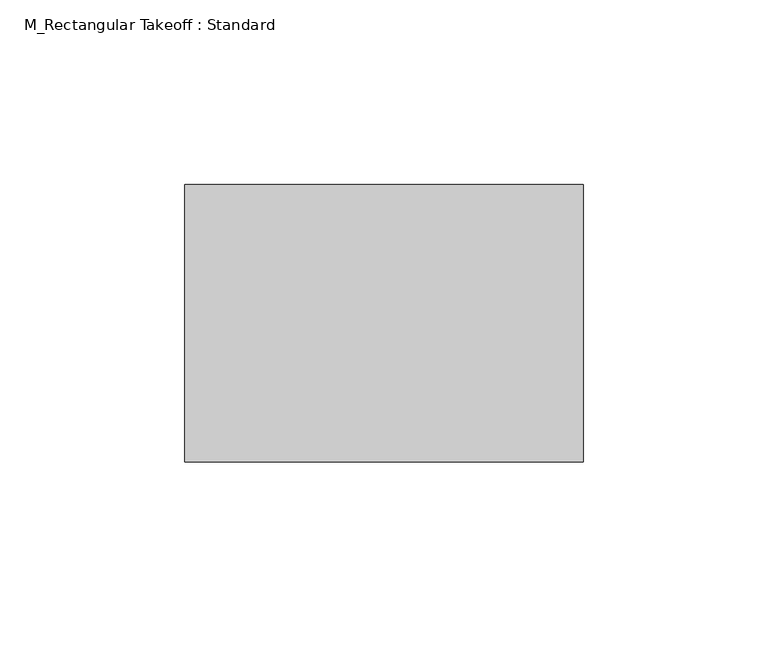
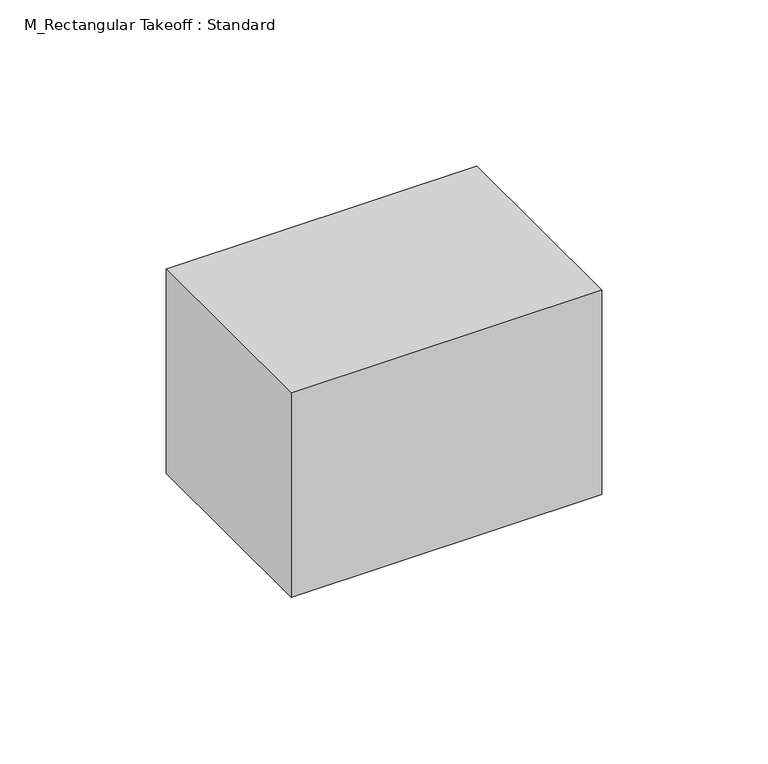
"""IFC4 building model written with IfcOpenShell, lengths in millimetres: duct fitting geometry, M_Rectangular Takeoff : Standard."""

from ifc_helpers import new_model, si_unit, frame, origin, place, context, project, spatial, polyline, outline, extrude, source, transform, mapped, element, save


def m_rectangular_takeoff_standard_39a10c1c(model_context):
    return source(origin(), model_context, "Body", "SweptSolid", [
        extrude(outline(polyline([(-6.096, -37.5), (-6.096, 37.5), (101.6, 37.5), (101.6, -37.5), (-6.096, -37.5)])), frame((0.0, 0.0, -37.5), z_axis=(0.0, 0.0, 1.0), x_axis=(1.0, 0.0, 0.0)), (0.0, 0.0, 1.0), 75.0),
    ])


if __name__ == "__main__":
    model = new_model("IFC4")
    model_context = context("Model", 3, world=origin())
    ifc_project = project(units=[si_unit("LENGTHUNIT", "METRE", prefix="MILLI")], contexts=[model_context])
    site = spatial("IfcSite", under=ifc_project)
    building = spatial("IfcBuilding", under=site)
    placement = place(None, origin())
    m_rectangular_takeoff_standard_shape = m_rectangular_takeoff_standard_39a10c1c(model_context)
    element("IfcDuctFitting", 1, ObjectType="M_Rectangular Takeoff : Standard", at=placement, inside=building, context=model_context, shape_type="MappedRepresentation", body=[
        mapped(m_rectangular_takeoff_standard_shape, transform((0.0, 0.0, 0.0), x_axis=(1.0, 0.0, 0.0), y_axis=(0.0, 1.0, 0.0), z_axis=(0.0, 0.0, 1.0))),
    ])
    save(model, "model.ifc")
